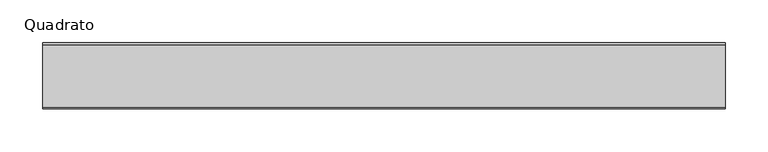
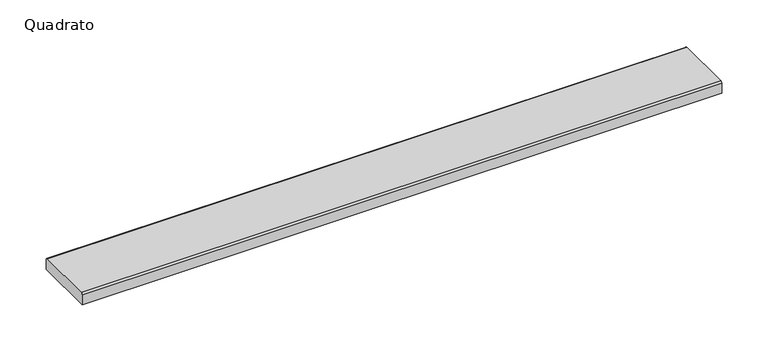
"""IFC4 building model written with IfcOpenShell, lengths in millimetres: sanitary terminal geometry, ZZZ_do not use_PF_UN_grating for ShowerDrain E and M series_ACO : Quadrato."""

from ifc_helpers import new_model, si_unit, point, frame, frame_2d, origin, place, context, project, spatial, polyline, circle_curve, trimmed, segment, composite_curve, outline, extrude, source, transform, mapped, element, save


def quadrato_745113d3(model_context):
    return source(origin(), model_context, "Body", "SweptSolid", [
        extrude(outline(composite_curve([segment(polyline([(38.5, -15.0), (-38.5, -15.0), (-38.5, -1.977849)]), True, "CONTINUOUS"), segment(trimmed(circle_curve(frame_2d((-36.522151, -1.977849)), 1.977849), [point((-38.5, -1.977849))], [point((-36.522151, 0.0))], False, "CARTESIAN"), True, "CONTINUOUS"), segment(polyline([(-36.522151, 0.0), (36.522151, 0.0)]), True, "CONTINUOUS"), segment(trimmed(circle_curve(frame_2d((36.522151, -1.977849)), 1.977849), [point((36.522151, 0.0))], [point((38.5, -1.977849))], False, "CARTESIAN"), True, "CONTINUOUS"), segment(polyline([(38.5, -1.977849), (38.5, -15.0)]), True, "CONTINUOUS")], self_intersect=False)), frame((-398.0, 0.0, 0.0), z_axis=(1.0, 0.0, 0.0), x_axis=(0.0, 1.0, 0.0)), (0.0, 0.0, 1.0), 796.0),
    ])


if __name__ == "__main__":
    model = new_model("IFC4")
    model_context = context("Model", 3, world=origin())
    ifc_project = project(units=[si_unit("LENGTHUNIT", "METRE", prefix="MILLI")], contexts=[model_context])
    site = spatial("IfcSite", under=ifc_project)
    building = spatial("IfcBuilding", under=site)
    placement = place(None, origin())
    quadrato_shape = quadrato_745113d3(model_context)
    element("IfcSanitaryTerminal", 1, ObjectType="ZZZ_do not use_PF_UN_grating for ShowerDrain E and M series_ACO : Quadrato", at=placement, inside=building, context=model_context, shape_type="MappedRepresentation", body=[
        mapped(quadrato_shape, transform((0.0, 0.0, 0.0), x_axis=(1.0, 0.0, 0.0), y_axis=(0.0, 1.0, 0.0), z_axis=(0.0, 0.0, 1.0))),
    ])
    save(model, "model.ifc")
